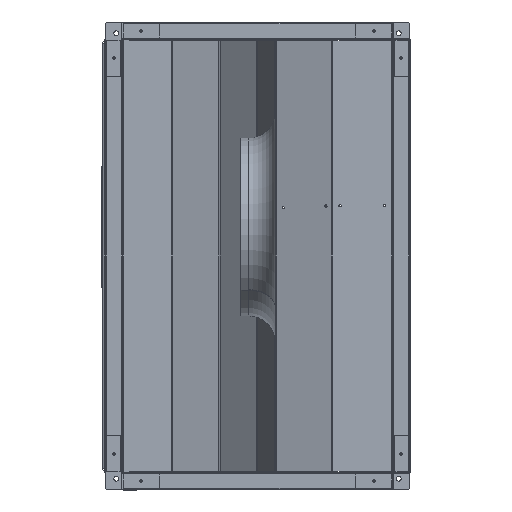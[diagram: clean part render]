
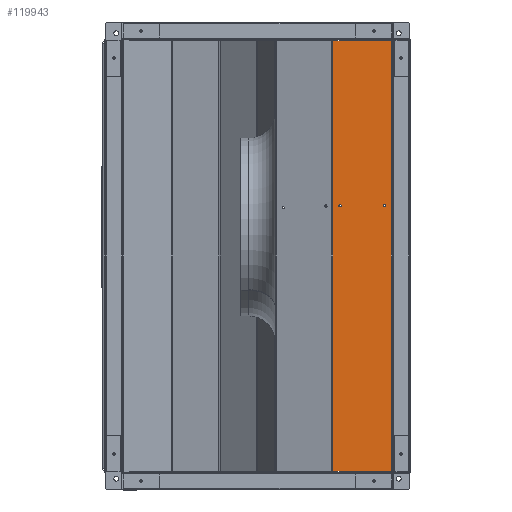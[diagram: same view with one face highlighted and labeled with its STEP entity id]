
A CAD part, left-side view. The second image highlights one B-rep face of the part: STEP entity #119943.
In plain terms, the highlighted planar face has unit normal (-1, 0, 0).
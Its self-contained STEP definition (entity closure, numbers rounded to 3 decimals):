
#2956 = CIRCLE ( 'NONE', #82072, 2.1 ) ;
#3016 = CIRCLE ( 'NONE', #82114, 2.1 ) ;
#3057 = LINE ( 'NONE', #66745, #3060 ) ;
#3060 = VECTOR ( 'NONE', #66746, 1000. ) ;
#16383 = DIRECTION ( 'NONE',  ( -1., 0., 0. ) ) ;
#16387 = CARTESIAN_POINT ( 'NONE',  ( -404., 1., 399. ) ) ;
#16390 = PLANE ( 'NONE',  #82746 ) ;
#16394 = DIRECTION ( 'NONE',  ( 0., -1., 0. ) ) ;
#17108 = EDGE_LOOP ( 'NONE', ( #83450, #83324, #83692, #82910 ) ) ;
#17110 = EDGE_LOOP ( 'NONE', ( #83486, #83484 ) ) ;
#17289 = EDGE_LOOP ( 'NONE', ( #84545, #84543 ) ) ;
#24115 = CARTESIAN_POINT ( 'NONE',  ( -404., 111.004, 399. ) ) ;
#24116 = DIRECTION ( 'NONE',  ( 0., 0., -1. ) ) ;
#24120 = CARTESIAN_POINT ( 'NONE',  ( -404., 2.707, 396.7 ) ) ;
#24125 = DIRECTION ( 'NONE',  ( 0., 1., 0. ) ) ;
#24126 = CARTESIAN_POINT ( 'NONE',  ( -404., 111.004, -396.7 ) ) ;
#24127 = DIRECTION ( 'NONE',  ( 0., -1., 0. ) ) ;
#51605 = CARTESIAN_POINT ( 'NONE',  ( -404., 100.028, 92.571 ) ) ;
#51665 = CARTESIAN_POINT ( 'NONE',  ( -404., 95.828, 92.571 ) ) ;
#52150 = CARTESIAN_POINT ( 'NONE',  ( -404., 111.004, 396.7 ) ) ;
#52158 = CARTESIAN_POINT ( 'NONE',  ( -404., 3.3, -396.7 ) ) ;
#52159 = CARTESIAN_POINT ( 'NONE',  ( -404., 3.3, 396.7 ) ) ;
#52169 = CARTESIAN_POINT ( 'NONE',  ( -404., 18.028, 92.571 ) ) ;
#66528 = CARTESIAN_POINT ( 'NONE',  ( -404., 97.928, 92.571 ) ) ;
#66529 = DIRECTION ( 'NONE',  ( 1., 0., 0. ) ) ;
#66530 = DIRECTION ( 'NONE',  ( 0., 1., 0. ) ) ;
#66661 = CARTESIAN_POINT ( 'NONE',  ( -404., 97.928, 92.571 ) ) ;
#66662 = DIRECTION ( 'NONE',  ( 1., 0., 0. ) ) ;
#66663 = DIRECTION ( 'NONE',  ( 0., 1., 0. ) ) ;
#66745 = CARTESIAN_POINT ( 'NONE',  ( -404., 3.3, -397.293 ) ) ;
#66746 = DIRECTION ( 'NONE',  ( 0., 0., 1. ) ) ;
#67827 = CARTESIAN_POINT ( 'NONE',  ( -404., 13.828, 92.571 ) ) ;
#67830 = CARTESIAN_POINT ( 'NONE',  ( -404., 111.004, -396.7 ) ) ;
#72864 = LINE ( 'NONE', #24120, #72872 ) ;
#72868 = LINE ( 'NONE', #24115, #72870 ) ;
#72870 = VECTOR ( 'NONE', #24116, 1000. ) ;
#72871 = LINE ( 'NONE', #24126, #72874 ) ;
#72872 = VECTOR ( 'NONE', #24125, 1000. ) ;
#72874 = VECTOR ( 'NONE', #24127, 1000. ) ;
#81553 = AXIS2_PLACEMENT_3D ( 'NONE', #112131, #112134, #112137 ) ;
#81587 = AXIS2_PLACEMENT_3D ( 'NONE', #112467, #112471, #112473 ) ;
#82072 = AXIS2_PLACEMENT_3D ( 'NONE', #66528, #66529, #66530 ) ;
#82114 = AXIS2_PLACEMENT_3D ( 'NONE', #66661, #66662, #66663 ) ;
#82746 = AXIS2_PLACEMENT_3D ( 'NONE', #16387, #16383, #16394 ) ;
#82910 = ORIENTED_EDGE ( 'NONE', *, *, #100551, .T. ) ;
#83324 = ORIENTED_EDGE ( 'NONE', *, *, #107197, .T. ) ;
#83450 = ORIENTED_EDGE ( 'NONE', *, *, #100553, .T. ) ;
#83484 = ORIENTED_EDGE ( 'NONE', *, *, #106429, .T. ) ;
#83486 = ORIENTED_EDGE ( 'NONE', *, *, #106466, .T. ) ;
#83692 = ORIENTED_EDGE ( 'NONE', *, *, #100552, .T. ) ;
#84543 = ORIENTED_EDGE ( 'NONE', *, *, #107041, .T. ) ;
#84545 = ORIENTED_EDGE ( 'NONE', *, *, #107137, .T. ) ;
#93222 = VERTEX_POINT ( 'NONE', #51605 ) ;
#93342 = VERTEX_POINT ( 'NONE', #51665 ) ;
#94346 = VERTEX_POINT ( 'NONE', #52150 ) ;
#94362 = VERTEX_POINT ( 'NONE', #52158 ) ;
#94364 = VERTEX_POINT ( 'NONE', #52159 ) ;
#94384 = VERTEX_POINT ( 'NONE', #52169 ) ;
#94618 = CIRCLE ( 'NONE', #81553, 2.1 ) ;
#94679 = CIRCLE ( 'NONE', #81587, 2.1 ) ;
#100551 = EDGE_CURVE ( 'NONE', #94346, #111715, #72868, .T. ) ;
#100552 = EDGE_CURVE ( 'NONE', #94364, #94346, #72864, .T. ) ;
#100553 = EDGE_CURVE ( 'NONE', #111715, #94362, #72871, .T. ) ;
#101958 = FACE_OUTER_BOUND ( 'NONE', #17108, .T. ) ;
#101960 = FACE_BOUND ( 'NONE', #17289, .T. ) ;
#101965 = FACE_BOUND ( 'NONE', #17110, .T. ) ;
#106429 = EDGE_CURVE ( 'NONE', #111713, #94384, #94618, .T. ) ;
#106466 = EDGE_CURVE ( 'NONE', #94384, #111713, #94679, .T. ) ;
#107041 = EDGE_CURVE ( 'NONE', #93342, #93222, #2956, .T. ) ;
#107137 = EDGE_CURVE ( 'NONE', #93222, #93342, #3016, .T. ) ;
#107197 = EDGE_CURVE ( 'NONE', #94362, #94364, #3057, .T. ) ;
#111713 = VERTEX_POINT ( 'NONE', #67827 ) ;
#111715 = VERTEX_POINT ( 'NONE', #67830 ) ;
#112131 = CARTESIAN_POINT ( 'NONE',  ( -404., 15.928, 92.571 ) ) ;
#112134 = DIRECTION ( 'NONE',  ( 1., 0., 0. ) ) ;
#112137 = DIRECTION ( 'NONE',  ( 0., 1., 0. ) ) ;
#112467 = CARTESIAN_POINT ( 'NONE',  ( -404., 15.928, 92.571 ) ) ;
#112471 = DIRECTION ( 'NONE',  ( 1., 0., 0. ) ) ;
#112473 = DIRECTION ( 'NONE',  ( 0., 1., 0. ) ) ;
#119943 = ADVANCED_FACE ( 'NONE', ( #101960, #101965, #101958 ), #16390, .T. ) ;
